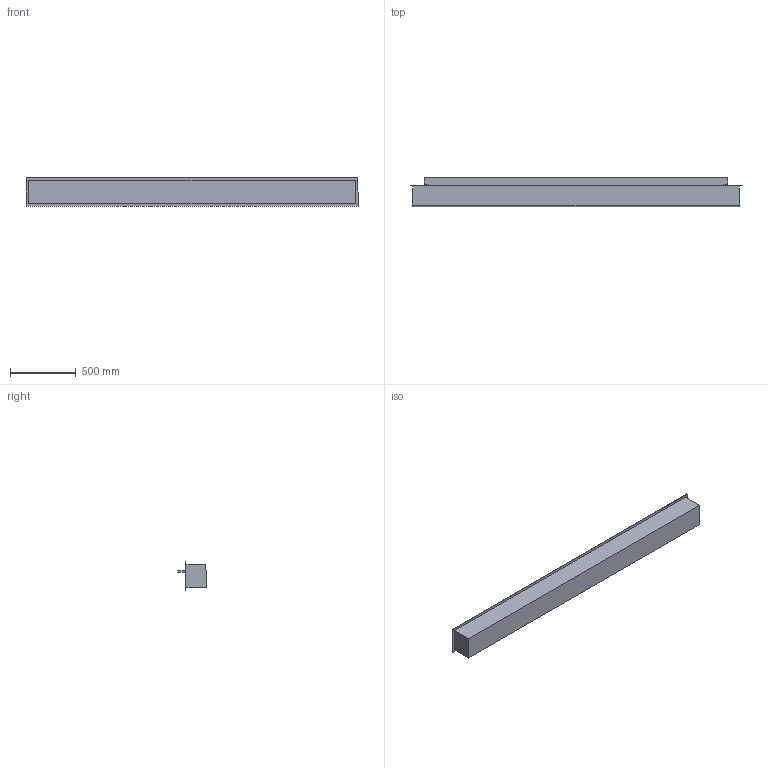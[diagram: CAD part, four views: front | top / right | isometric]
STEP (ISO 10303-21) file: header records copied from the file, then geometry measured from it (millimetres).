
FILE_DESCRIPTION (( 'STEP AP203' ), '1' );
FILE_NAME ('Denver F6 2520.STEP', '2024-03-13T09:23:16', ( '' ), ( '' ), 'SwSTEP 2.0', 'SolidWorks 2023', '' );
FILE_SCHEMA (( 'CONFIG_CONTROL_DESIGN' ));
Length unit declared in the file: millimetre
Products named in the file (1): Denver F6 2520
Bounding box: 2520 x 220 x 215 mm (x, y, z)
Volume: 70772619 mm3; surface area: 3181328.2 mm2
Topology: 8 solids, 8 shells, 68 faces, 156 edges, 104 vertices
Faces by surface type: plane 68
Entity records: 1955 total; most frequent: CARTESIAN_POINT 329, ORIENTED_EDGE 312, DIRECTION 294, EDGE_CURVE 156, VECTOR 156, LINE 156, VERTEX_POINT 104, EDGE_LOOP 74
